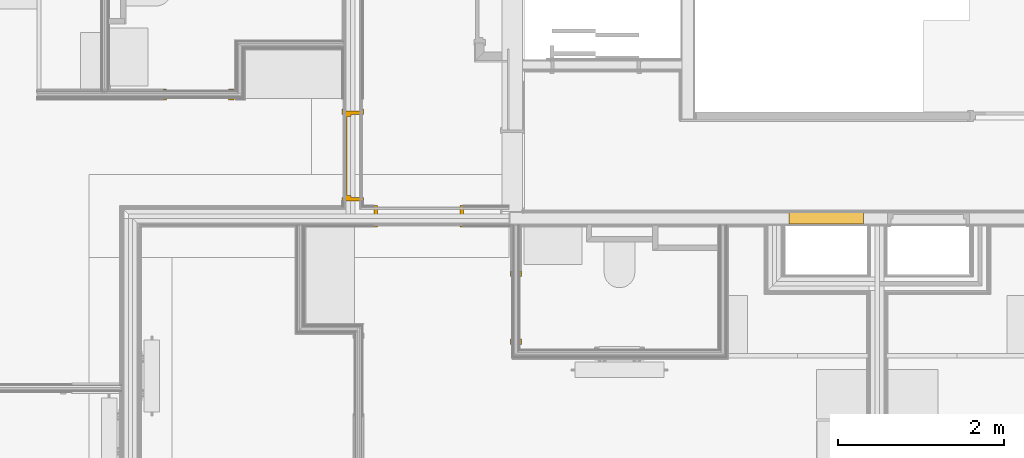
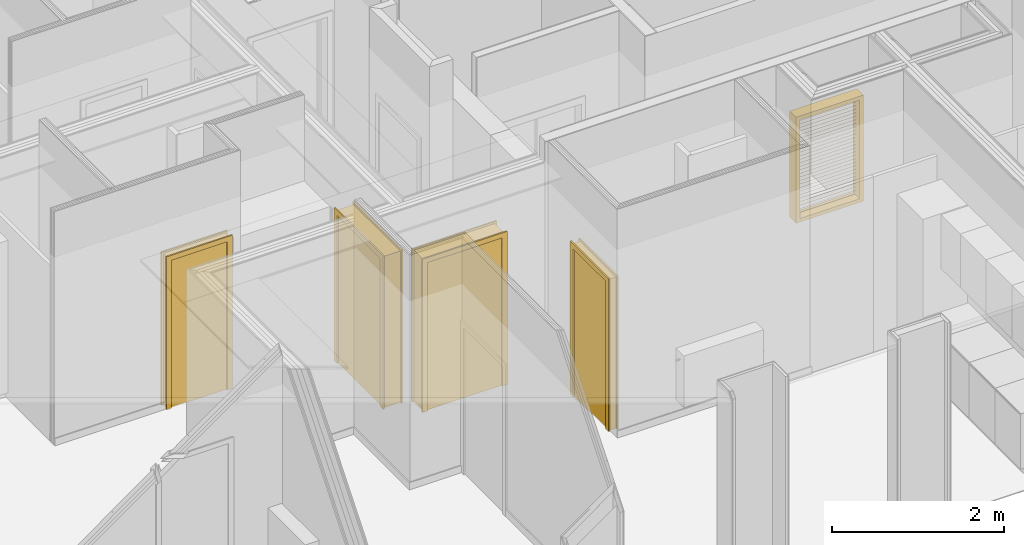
# One storey, part 54 of 65: 4 doors, 1 curtain wall.
"""IFC2X3 building model written with IfcOpenShell, lengths in metres."""

from ifc_helpers import new_model, entity, si_unit, converted_unit, derived_unit, money_unit, direction, frame, origin_with_axes, place, context, subcontext, project, spatial, open_shell, faceted_brep, surface_model, material, type_object, element, save


model = new_model("IFC2X3")

# Units and contexts
model_context = context("Model", 3, precision=1e-05, world=origin_with_axes(), true_north=direction((0.0, 1.0)))
body_context = subcontext(model_context, "Body", "Model", "MODEL_VIEW", scale=1.0)
ifc_project = project(units=[si_unit("LENGTHUNIT", "METRE"), si_unit("AREAUNIT", "SQUARE_METRE"), si_unit("VOLUMEUNIT", "CUBIC_METRE"), si_unit("ABSORBEDDOSEUNIT", "GRAY"), si_unit("AMOUNTOFSUBSTANCEUNIT", "MOLE"), si_unit("DOSEEQUIVALENTUNIT", "SIEVERT"), si_unit("ELECTRICCAPACITANCEUNIT", "FARAD"), si_unit("ELECTRICCHARGEUNIT", "COULOMB"), si_unit("ELECTRICCONDUCTANCEUNIT", "SIEMENS"), si_unit("ELECTRICCURRENTUNIT", "AMPERE"), si_unit("ELECTRICRESISTANCEUNIT", "OHM"), si_unit("ELECTRICVOLTAGEUNIT", "VOLT"), si_unit("ENERGYUNIT", "JOULE"), si_unit("FORCEUNIT", "NEWTON"), si_unit("FREQUENCYUNIT", "HERTZ"), si_unit("ILLUMINANCEUNIT", "LUX"), si_unit("INDUCTANCEUNIT", "HENRY"), si_unit("LUMINOUSFLUXUNIT", "LUMEN"), si_unit("LUMINOUSINTENSITYUNIT", "CANDELA"), si_unit("MAGNETICFLUXDENSITYUNIT", "TESLA"), si_unit("MAGNETICFLUXUNIT", "WEBER"), si_unit("MASSUNIT", "GRAM"), converted_unit("PLANEANGLEUNIT", "degree", entity("IfcReal", 0.0174532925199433), si_unit("PLANEANGLEUNIT", "RADIAN"), dimensions=[0, 0, 0, 0, 0, 0, 0]), si_unit("POWERUNIT", "WATT"), si_unit("PRESSUREUNIT", "PASCAL"), si_unit("RADIOACTIVITYUNIT", "BECQUEREL"), si_unit("SOLIDANGLEUNIT", "STERADIAN"), si_unit("THERMODYNAMICTEMPERATUREUNIT", "KELVIN"), si_unit("TIMEUNIT", "SECOND"), derived_unit("ACCELERATIONUNIT", [(si_unit("LENGTHUNIT", "METRE"), 1), (si_unit("TIMEUNIT", "SECOND"), -2)]), derived_unit("ANGULARVELOCITYUNIT", [(converted_unit("PLANEANGLEUNIT", "degree", entity("IfcReal", 0.0174532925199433), si_unit("PLANEANGLEUNIT", "RADIAN"), dimensions=[0, 0, 0, 0, 0, 0, 0]), 1), (si_unit("TIMEUNIT", "SECOND"), -1)]), derived_unit("CURVATUREUNIT", [(converted_unit("PLANEANGLEUNIT", "degree", entity("IfcReal", 0.0174532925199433), si_unit("PLANEANGLEUNIT", "RADIAN"), dimensions=[0, 0, 0, 0, 0, 0, 0]), 1), (si_unit("LENGTHUNIT", "METRE"), -1)]), derived_unit("DYNAMICVISCOSITYUNIT", [(si_unit("PRESSUREUNIT", "PASCAL"), 1), (si_unit("TIMEUNIT", "SECOND"), 1)]), derived_unit("HEATFLUXDENSITYUNIT", [(si_unit("POWERUNIT", "WATT"), 1), (si_unit("LENGTHUNIT", "METRE"), -2)]), derived_unit("HEATINGVALUEUNIT", [(si_unit("ENERGYUNIT", "JOULE"), 1), (si_unit("MASSUNIT", "GRAM"), -1)]), derived_unit("INTEGERCOUNTRATEUNIT", [(si_unit("TIMEUNIT", "SECOND"), -1)]), derived_unit("IONCONCENTRATIONUNIT", [(si_unit("MASSUNIT", "GRAM"), 1), (si_unit("VOLUMEUNIT", "CUBIC_METRE"), -1)]), derived_unit("ISOTHERMALMOISTURECAPACITYUNIT", [(si_unit("VOLUMEUNIT", "CUBIC_METRE"), 1), (si_unit("MASSUNIT", "GRAM"), -1)]), derived_unit("KINEMATICVISCOSITYUNIT", [(si_unit("AREAUNIT", "SQUARE_METRE"), 1), (si_unit("TIMEUNIT", "SECOND"), -1)]), derived_unit("LINEARFORCEUNIT", [(si_unit("FORCEUNIT", "NEWTON"), 1), (si_unit("LENGTHUNIT", "METRE"), -1)]), derived_unit("LINEARMOMENTUNIT", [(si_unit("FORCEUNIT", "NEWTON"), 1), (si_unit("LENGTHUNIT", "METRE"), -1)]), derived_unit("LINEARSTIFFNESSUNIT", [(si_unit("FORCEUNIT", "NEWTON"), 1), (si_unit("LENGTHUNIT", "METRE"), -1)]), derived_unit("LINEARVELOCITYUNIT", [(si_unit("LENGTHUNIT", "METRE"), 1), (si_unit("TIMEUNIT", "SECOND"), -1)]), derived_unit("LUMINOUSINTENSITYDISTRIBUTIONUNIT", [(si_unit("LUMINOUSINTENSITYUNIT", "CANDELA"), 1), (si_unit("LUMINOUSFLUXUNIT", "LUMEN"), -1)]), derived_unit("MASSDENSITYUNIT", [(si_unit("MASSUNIT", "GRAM"), 1), (si_unit("VOLUMEUNIT", "CUBIC_METRE"), -1)]), derived_unit("MASSFLOWRATEUNIT", [(si_unit("MASSUNIT", "GRAM"), 1), (si_unit("TIMEUNIT", "SECOND"), -1)]), derived_unit("MASSPERLENGTHUNIT", [(si_unit("MASSUNIT", "GRAM"), 1), (si_unit("LENGTHUNIT", "METRE"), -1)]), derived_unit("MODULUSOFELASTICITYUNIT", [(si_unit("FORCEUNIT", "NEWTON"), 1), (si_unit("AREAUNIT", "SQUARE_METRE"), -1)]), derived_unit("MODULUSOFLINEARSUBGRADEREACTIONUNIT", [(si_unit("FORCEUNIT", "NEWTON"), 1), (si_unit("LENGTHUNIT", "METRE"), -2)]), derived_unit("MODULUSOFROTATIONALSUBGRADEREACTIONUNIT", [(si_unit("FORCEUNIT", "NEWTON"), 1), (si_unit("LENGTHUNIT", "METRE"), 1)]), derived_unit("MODULUSOFSUBGRADEREACTIONUNIT", [(si_unit("FORCEUNIT", "NEWTON"), 1), (si_unit("VOLUMEUNIT", "CUBIC_METRE"), -1)]), derived_unit("MOISTUREDIFFUSIVITYUNIT", [(si_unit("VOLUMEUNIT", "CUBIC_METRE"), 1), (si_unit("TIMEUNIT", "SECOND"), -1)]), derived_unit("MOLECULARWEIGHTUNIT", [(si_unit("MASSUNIT", "GRAM"), 1), (si_unit("AMOUNTOFSUBSTANCEUNIT", "MOLE"), -1)]), derived_unit("PLANARFORCEUNIT", [(si_unit("FORCEUNIT", "NEWTON"), 1), (si_unit("LENGTHUNIT", "METRE"), -2)]), derived_unit("ROTATIONALFREQUENCYUNIT", [(si_unit("TIMEUNIT", "SECOND"), -1)]), derived_unit("ROTATIONALMASSUNIT", [(si_unit("MASSUNIT", "GRAM"), 1), (si_unit("LENGTHUNIT", "METRE"), 2)]), derived_unit("ROTATIONALSTIFFNESSUNIT", [(si_unit("FORCEUNIT", "NEWTON"), 1), (si_unit("LENGTHUNIT", "METRE"), 1), (converted_unit("PLANEANGLEUNIT", "degree", entity("IfcReal", 0.0174532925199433), si_unit("PLANEANGLEUNIT", "RADIAN"), dimensions=[0, 0, 0, 0, 0, 0, 0]), -1)]), derived_unit("SECTIONAREAINTEGRALUNIT", [(si_unit("LENGTHUNIT", "METRE"), 5)]), derived_unit("SECTIONMODULUSUNIT", [(si_unit("LENGTHUNIT", "METRE"), 3)]), derived_unit("SHEARMODULUSUNIT", [(si_unit("FORCEUNIT", "NEWTON"), 1), (si_unit("AREAUNIT", "SQUARE_METRE"), -1)]), derived_unit("SOUNDPOWERUNIT", [(si_unit("ENERGYUNIT", "JOULE"), 1), (si_unit("TIMEUNIT", "SECOND"), -1)]), derived_unit("SPECIFICHEATCAPACITYUNIT", [(si_unit("FORCEUNIT", "NEWTON"), 1), (si_unit("MASSUNIT", "GRAM"), -1), (si_unit("THERMODYNAMICTEMPERATUREUNIT", "KELVIN"), -1)]), derived_unit("TEMPERATUREGRADIENTUNIT", [(si_unit("THERMODYNAMICTEMPERATUREUNIT", "KELVIN"), 1), (si_unit("LENGTHUNIT", "METRE"), -1)]), derived_unit("THERMALADMITTANCEUNIT", [(si_unit("POWERUNIT", "WATT"), 1), (si_unit("AREAUNIT", "SQUARE_METRE"), -1), (si_unit("THERMODYNAMICTEMPERATUREUNIT", "KELVIN"), -1)]), derived_unit("THERMALCONDUCTANCEUNIT", [(si_unit("POWERUNIT", "WATT"), 1), (si_unit("LENGTHUNIT", "METRE"), -1), (si_unit("THERMODYNAMICTEMPERATUREUNIT", "KELVIN"), -1)]), derived_unit("THERMALEXPANSIONCOEFFICIENTUNIT", [(si_unit("THERMODYNAMICTEMPERATUREUNIT", "KELVIN"), -1)]), derived_unit("THERMALRESISTANCEUNIT", [(si_unit("AREAUNIT", "SQUARE_METRE"), 1), (si_unit("POWERUNIT", "WATT"), -1)]), derived_unit("THERMALTRANSMITTANCEUNIT", [(si_unit("POWERUNIT", "WATT"), 1), (si_unit("AREAUNIT", "SQUARE_METRE"), -1), (si_unit("THERMODYNAMICTEMPERATUREUNIT", "KELVIN"), -1)]), derived_unit("TORQUEUNIT", [(si_unit("FORCEUNIT", "NEWTON"), 1), (si_unit("LENGTHUNIT", "METRE"), 1)]), derived_unit("VAPORPERMEABILITYUNIT", [(si_unit("MASSUNIT", "GRAM"), 1), (si_unit("TIMEUNIT", "SECOND"), -1)]), derived_unit("VOLUMETRICFLOWRATEUNIT", [(si_unit("VOLUMEUNIT", "CUBIC_METRE"), 1), (si_unit("TIMEUNIT", "SECOND"), -1)]), derived_unit("WARPINGCONSTANTUNIT", [(si_unit("LENGTHUNIT", "METRE"), 6)]), derived_unit("WARPINGMOMENTUNIT", [(si_unit("FORCEUNIT", "NEWTON"), 1), (si_unit("LENGTHUNIT", "METRE"), 2)]), money_unit("GBP")], contexts=[model_context])

# Site, building, storey
site_placement = place(None, origin_with_axes())
site = spatial("IfcSite", under=ifc_project, at=site_placement, Name="Site", CompositionType="ELEMENT")
building_placement = place(site_placement, origin_with_axes())
building = spatial("IfcBuilding", under=site, at=building_placement, Name="Building01", CompositionType="ELEMENT")
storey_placement = place(building_placement, frame((0.0, 0.0, 8.64), z_axis=(0.0, 0.0, 1.0), x_axis=(1.0, 0.0, 0.0)))
storey = spatial("IfcBuildingStorey", under=building, at=storey_placement, Name="2F", CompositionType="ELEMENT", Elevation=8.64)

# Curtain wall
ifc_material_1 = material(Name="A-CurtainWall_Frame")
curtain_wall_type = type_object("IfcCurtainWallType", Name="Generic - Maximum Spacing", PredefinedType="NOTDEFINED")
curtain_wall_placement = place(storey_placement, frame((0.0, 0.0, -8.64), z_axis=(0.0, 0.0, 1.0), x_axis=(1.0, 0.0, 0.0)))
element("IfcCurtainWall", 1, at=curtain_wall_placement, inside=storey, type_object=curtain_wall_type, material=ifc_material_1, Name="Generic - Maximum Spacing", ObjectType="Generic - Maximum Spacing", context=body_context, shape_type="SurfaceModel", body=[
    surface_model("IfcShellBasedSurfaceModel", [(12.483, 5.12953, 9.573684), (12.483, 5.131392, 9.576216), (12.483, 5.09047, 9.606316), (12.483, 5.088608, 9.603784), (13.283, 5.12953, 9.573684), (13.283, 5.088608, 9.603784), (13.283, 5.09047, 9.606316), (13.283, 5.131392, 9.576216), (12.483, 5.131392, 9.626216), (12.483, 5.09047, 9.656316), (12.483, 5.088608, 9.653784), (12.483, 5.12953, 9.623684), (13.283, 5.12953, 9.623684), (13.283, 5.088608, 9.653784), (13.283, 5.09047, 9.656316), (13.283, 5.131392, 9.626216), (12.483, 5.131392, 9.676216), (12.483, 5.09047, 9.706316), (12.483, 5.088608, 9.703784), (12.483, 5.12953, 9.673684), (13.283, 5.12953, 9.673684), (13.283, 5.088608, 9.703784), (13.283, 5.09047, 9.706316), (13.283, 5.131392, 9.676216), (12.483, 5.131392, 9.726216), (12.483, 5.09047, 9.756316), (12.483, 5.088608, 9.753784), (12.483, 5.12953, 9.723684), (13.283, 5.12953, 9.723684), (13.283, 5.088608, 9.753784), (13.283, 5.09047, 9.756316), (13.283, 5.131392, 9.726216), (12.483, 5.131392, 9.776216), (12.483, 5.09047, 9.806316), (12.483, 5.088608, 9.803784), (12.483, 5.12953, 9.773684), (13.283, 5.12953, 9.773684), (13.283, 5.088608, 9.803784), (13.283, 5.09047, 9.806316), (13.283, 5.131392, 9.776216), (12.483, 5.131392, 9.826216), (12.483, 5.09047, 9.856316), (12.483, 5.088608, 9.853784), (12.483, 5.12953, 9.823684), (13.283, 5.12953, 9.823684), (13.283, 5.088608, 9.853784), (13.283, 5.09047, 9.856316), (13.283, 5.131392, 9.826216), (12.483, 5.131392, 9.876216), (12.483, 5.09047, 9.906316), (12.483, 5.088608, 9.903784), (12.483, 5.12953, 9.873684), (13.283, 5.12953, 9.873684), (13.283, 5.088608, 9.903784), (13.283, 5.09047, 9.906316), (13.283, 5.131392, 9.876216), (12.483, 5.131392, 9.926216), (12.483, 5.09047, 9.956316), (12.483, 5.088608, 9.953784), (12.483, 5.12953, 9.923684), (13.283, 5.12953, 9.923684), (13.283, 5.088608, 9.953784), (13.283, 5.09047, 9.956316), (13.283, 5.131392, 9.926216), (12.483, 5.131392, 9.976216), (12.483, 5.09047, 10.006316), (12.483, 5.088608, 10.003784), (12.483, 5.12953, 9.973684), (13.283, 5.12953, 9.973684), (13.283, 5.088608, 10.003784), (13.283, 5.09047, 10.006316), (13.283, 5.131392, 9.976216), (12.483, 5.131392, 10.026216), (12.483, 5.09047, 10.056316), (12.483, 5.088608, 10.053784), (12.483, 5.12953, 10.023684), (13.283, 5.12953, 10.023684), (13.283, 5.088608, 10.053784), (13.283, 5.09047, 10.056316), (13.283, 5.131392, 10.026216), (12.483, 5.131392, 10.076216), (12.483, 5.09047, 10.106316), (12.483, 5.088608, 10.103784), (12.483, 5.12953, 10.073684), (13.283, 5.12953, 10.073684), (13.283, 5.088608, 10.103784), (13.283, 5.09047, 10.106316), (13.283, 5.131392, 10.076216), (12.483, 5.131392, 10.126216), (12.483, 5.09047, 10.156316), (12.483, 5.088608, 10.153784), (12.483, 5.12953, 10.123684), (13.283, 5.12953, 10.123684), (13.283, 5.088608, 10.153784), (13.283, 5.09047, 10.156316), (13.283, 5.131392, 10.126216), (12.483, 5.131392, 10.176216), (12.483, 5.09047, 10.206316), (12.483, 5.088608, 10.203784), (12.483, 5.12953, 10.173684), (13.283, 5.12953, 10.173684), (13.283, 5.088608, 10.203784), (13.283, 5.09047, 10.206316), (13.283, 5.131392, 10.176216), (12.483, 5.131392, 10.226216), (12.483, 5.09047, 10.256316), (12.483, 5.088608, 10.253784), (12.483, 5.12953, 10.223684), (13.283, 5.12953, 10.223684), (13.283, 5.088608, 10.253784), (13.283, 5.09047, 10.256316), (13.283, 5.131392, 10.226216), (12.483, 5.131392, 10.276216), (12.483, 5.09047, 10.306316), (12.483, 5.088608, 10.303784), (12.483, 5.12953, 10.273684), (13.283, 5.12953, 10.273684), (13.283, 5.088608, 10.303784), (13.283, 5.09047, 10.306316), (13.283, 5.131392, 10.276216), (12.483, 5.131392, 10.326216), (12.483, 5.09047, 10.356316), (12.483, 5.088608, 10.353784), (12.483, 5.12953, 10.323684), (13.283, 5.12953, 10.323684), (13.283, 5.088608, 10.353784), (13.283, 5.09047, 10.356316), (13.283, 5.131392, 10.326216), (12.483, 5.131392, 10.376216), (12.483, 5.09047, 10.406316), (12.483, 5.088608, 10.403784), (12.483, 5.12953, 10.373684), (13.283, 5.12953, 10.373684), (13.283, 5.088608, 10.403784), (13.283, 5.09047, 10.406316), (13.283, 5.131392, 10.376216), (12.483, 5.131392, 10.426216), (12.483, 5.09047, 10.456316), (12.483, 5.088608, 10.453784), (12.483, 5.12953, 10.423684), (13.283, 5.12953, 10.423684), (13.283, 5.088608, 10.453784), (13.283, 5.09047, 10.456316), (13.283, 5.131392, 10.426216), (12.483, 5.131392, 10.476216), (12.483, 5.09047, 10.506316), (12.483, 5.088608, 10.503784), (12.483, 5.12953, 10.473684), (13.283, 5.12953, 10.473684), (13.283, 5.088608, 10.503784), (13.283, 5.09047, 10.506316), (13.283, 5.131392, 10.476216), (12.483, 5.131392, 10.526216), (12.483, 5.09047, 10.556316), (12.483, 5.088608, 10.553784), (12.483, 5.12953, 10.523684), (13.283, 5.12953, 10.523684), (13.283, 5.088608, 10.553784), (13.283, 5.09047, 10.556316), (13.283, 5.131392, 10.526216), (12.483, 5.131392, 10.576216), (12.483, 5.09047, 10.606316), (12.483, 5.088608, 10.603784), (12.483, 5.12953, 10.573684), (13.283, 5.12953, 10.573684), (13.283, 5.088608, 10.603784), (13.283, 5.09047, 10.606316), (13.283, 5.131392, 10.576216), (12.483, 5.131392, 10.626216), (12.483, 5.09047, 10.656316), (12.483, 5.088608, 10.653784), (12.483, 5.12953, 10.623684), (13.283, 5.12953, 10.623684), (13.283, 5.088608, 10.653784), (13.283, 5.09047, 10.656316), (13.283, 5.131392, 10.626216), (12.483, 5.131392, 10.676216), (12.483, 5.09047, 10.706316), (12.483, 5.088608, 10.703784), (12.483, 5.12953, 10.673684), (13.283, 5.12953, 10.673684), (13.283, 5.088608, 10.703784), (13.283, 5.09047, 10.706316), (13.283, 5.131392, 10.676216), (12.483, 5.131392, 10.726216), (12.483, 5.09047, 10.756316), (12.483, 5.088608, 10.753784), (12.483, 5.12953, 10.723684), (13.283, 5.12953, 10.723684), (13.283, 5.088608, 10.753784), (13.283, 5.09047, 10.756316), (13.283, 5.131392, 10.726216), (12.483, 5.131392, 10.776216), (12.483, 5.09047, 10.806316), (12.483, 5.088608, 10.803784), (12.483, 5.12953, 10.773684), (13.283, 5.12953, 10.773684), (13.283, 5.088608, 10.803784), (13.283, 5.09047, 10.806316), (13.283, 5.131392, 10.776216), (12.483, 5.131392, 10.826216), (12.483, 5.09047, 10.856316), (12.483, 5.088608, 10.853784), (12.483, 5.12953, 10.823684), (13.283, 5.12953, 10.823684), (13.283, 5.088608, 10.853784), (13.283, 5.09047, 10.856316), (13.283, 5.131392, 10.826216), (12.483, 5.131392, 10.876216), (12.483, 5.09047, 10.906316), (12.483, 5.088608, 10.903784), (12.483, 5.12953, 10.873684), (13.283, 5.12953, 10.873684), (13.283, 5.088608, 10.903784), (13.283, 5.09047, 10.906316), (13.283, 5.131392, 10.876216), (12.483, 5.131392, 10.926216), (12.483, 5.09047, 10.956316), (12.483, 5.088608, 10.953784), (12.483, 5.12953, 10.923684), (13.283, 5.12953, 10.923684), (13.283, 5.088608, 10.953784), (13.283, 5.09047, 10.956316), (13.283, 5.131392, 10.926216), (13.283, 5.15, 9.59), (13.283, 5.0, 9.59), (13.283, 5.0, 9.54), (13.283, 5.15, 9.54), (12.483, 5.15, 9.54), (12.483, 5.15, 9.59), (12.483, 5.0, 9.59), (12.483, 5.0, 9.54), (13.333, 5.0, 11.04), (13.333, 5.15, 11.04), (13.283, 5.15, 11.04), (13.283, 5.0, 11.04), (13.333, 5.0, 9.54), (13.333, 5.15, 9.54), (12.483, 5.0, 11.04), (12.483, 5.15, 11.04), (12.483, 5.15, 10.99), (12.483, 5.0, 10.99), (13.283, 5.0, 10.99), (13.283, 5.15, 10.99), (12.433, 5.0, 9.54), (12.433, 5.15, 9.54), (12.433, 5.0, 11.04), (12.433, 5.15, 11.04)], [open_shell([[[0, 1, 2, 3]], [[1, 2, 3, 0]], [[4, 5, 6, 7]], [[1, 0, 4, 7]], [[2, 1, 7, 6]], [[3, 2, 6, 5]], [[4, 0, 3, 5]], [[8, 9, 10, 11]], [[12, 13, 14, 15]], [[8, 11, 12, 15]], [[9, 8, 15, 14]], [[10, 9, 14, 13]], [[12, 11, 10, 13]], [[16, 17, 18, 19]], [[20, 21, 22, 23]], [[16, 19, 20, 23]], [[17, 16, 23, 22]], [[18, 17, 22, 21]], [[20, 19, 18, 21]], [[24, 25, 26, 27]], [[28, 29, 30, 31]], [[24, 27, 28, 31]], [[25, 24, 31, 30]], [[26, 25, 30, 29]], [[28, 27, 26, 29]], [[32, 33, 34, 35]], [[36, 37, 38, 39]], [[32, 35, 36, 39]], [[33, 32, 39, 38]], [[34, 33, 38, 37]], [[36, 35, 34, 37]], [[40, 41, 42, 43]], [[44, 45, 46, 47]], [[40, 43, 44, 47]], [[41, 40, 47, 46]], [[42, 41, 46, 45]], [[44, 43, 42, 45]], [[48, 49, 50, 51]], [[52, 53, 54, 55]], [[48, 51, 52, 55]], [[49, 48, 55, 54]], [[50, 49, 54, 53]], [[52, 51, 50, 53]], [[56, 57, 58, 59]], [[60, 61, 62, 63]], [[56, 59, 60, 63]], [[57, 56, 63, 62]], [[58, 57, 62, 61]], [[60, 59, 58, 61]], [[64, 65, 66, 67]], [[68, 69, 70, 71]], [[64, 67, 68, 71]], [[65, 64, 71, 70]], [[66, 65, 70, 69]], [[68, 67, 66, 69]], [[72, 73, 74, 75]], [[76, 77, 78, 79]], [[72, 75, 76, 79]], [[73, 72, 79, 78]], [[74, 73, 78, 77]], [[76, 75, 74, 77]], [[80, 81, 82, 83]], [[84, 85, 86, 87]], [[80, 83, 84, 87]], [[81, 80, 87, 86]], [[82, 81, 86, 85]], [[84, 83, 82, 85]], [[88, 89, 90, 91]], [[92, 93, 94, 95]], [[88, 91, 92, 95]], [[89, 88, 95, 94]], [[90, 89, 94, 93]], [[92, 91, 90, 93]], [[96, 97, 98, 99]], [[100, 101, 102, 103]], [[96, 99, 100, 103]], [[97, 96, 103, 102]], [[98, 97, 102, 101]], [[100, 99, 98, 101]], [[104, 105, 106, 107]], [[108, 109, 110, 111]], [[104, 107, 108, 111]], [[105, 104, 111, 110]], [[106, 105, 110, 109]], [[108, 107, 106, 109]], [[112, 113, 114, 115]], [[116, 117, 118, 119]], [[112, 115, 116, 119]], [[113, 112, 119, 118]], [[114, 113, 118, 117]], [[116, 115, 114, 117]], [[120, 121, 122, 123]], [[124, 125, 126, 127]], [[120, 123, 124, 127]], [[121, 120, 127, 126]], [[122, 121, 126, 125]], [[124, 123, 122, 125]], [[128, 129, 130, 131]], [[132, 133, 134, 135]], [[128, 131, 132, 135]], [[129, 128, 135, 134]], [[130, 129, 134, 133]], [[132, 131, 130, 133]], [[136, 137, 138, 139]], [[140, 141, 142, 143]], [[136, 139, 140, 143]], [[137, 136, 143, 142]], [[138, 137, 142, 141]], [[140, 139, 138, 141]], [[144, 145, 146, 147]], [[148, 149, 150, 151]], [[144, 147, 148, 151]], [[145, 144, 151, 150]], [[146, 145, 150, 149]], [[148, 147, 146, 149]], [[152, 153, 154, 155]], [[156, 157, 158, 159]], [[152, 155, 156, 159]], [[153, 152, 159, 158]], [[154, 153, 158, 157]], [[156, 155, 154, 157]], [[160, 161, 162, 163]], [[164, 165, 166, 167]], [[160, 163, 164, 167]], [[161, 160, 167, 166]], [[162, 161, 166, 165]], [[164, 163, 162, 165]], [[168, 169, 170, 171]], [[172, 173, 174, 175]], [[168, 171, 172, 175]], [[169, 168, 175, 174]], [[170, 169, 174, 173]], [[172, 171, 170, 173]], [[176, 177, 178, 179]], [[180, 181, 182, 183]], [[176, 179, 180, 183]], [[177, 176, 183, 182]], [[178, 177, 182, 181]], [[180, 179, 178, 181]], [[184, 185, 186, 187]], [[188, 189, 190, 191]], [[184, 187, 188, 191]], [[185, 184, 191, 190]], [[186, 185, 190, 189]], [[188, 187, 186, 189]], [[192, 193, 194, 195]], [[196, 197, 198, 199]], [[192, 195, 196, 199]], [[193, 192, 199, 198]], [[194, 193, 198, 197]], [[196, 195, 194, 197]], [[200, 201, 202, 203]], [[204, 205, 206, 207]], [[200, 203, 204, 207]], [[201, 200, 207, 206]], [[202, 201, 206, 205]], [[204, 203, 202, 205]], [[208, 209, 210, 211]], [[212, 213, 214, 215]], [[208, 211, 212, 215]], [[209, 208, 215, 214]], [[210, 209, 214, 213]], [[212, 211, 210, 213]], [[216, 217, 218, 219]], [[220, 221, 222, 223]], [[216, 219, 220, 223]], [[217, 216, 223, 222]], [[218, 217, 222, 221]], [[220, 219, 218, 221]], [[224, 225, 226, 227]], [[227, 228, 229, 224]], [[224, 229, 230, 225]], [[225, 230, 231, 226]], [[226, 231, 228, 227]], [[231, 230, 229, 228]], [[232, 233, 234, 235]], [[235, 226, 236, 232]], [[234, 227, 226, 235]], [[233, 237, 227, 234]], [[232, 236, 237, 233]], [[226, 227, 237, 236]], [[238, 239, 240, 241]], [[241, 242, 235, 238]], [[238, 235, 234, 239]], [[239, 234, 243, 240]], [[240, 243, 242, 241]], [[243, 234, 235, 242]], [[244, 245, 228, 231]], [[231, 238, 246, 244]], [[228, 239, 238, 231]], [[245, 247, 239, 228]], [[244, 246, 247, 245]], [[238, 239, 247, 246]]])]),
])

# Space
space_1_placement = place(storey_placement, frame((6.595, 4.98, 0.017975), z_axis=(0.0, 0.0, 1.0), x_axis=(0.0, -1.0, 0.0)))
space_1 = spatial("IfcSpace", under=storey, at=space_1_placement, Name="k/d/l", CompositionType="ELEMENT", InteriorOrExteriorSpace="NOTDEFINED")

# Door
ifc_material_2 = material(Name="A_BSUK_Doors")
door_style_1 = type_object("IfcDoorStyle", Name="A-Doors-SingleFlush", ConstructionType="USERDEFINED", OperationType="SINGLE_SWING_RIGHT", ParameterTakesPrecedence=False, Sizeable=False)
door_1_placement = place(storey_placement, frame((8.4725, 4.98, 0.004), z_axis=(0.0, 0.0, 1.0), x_axis=(-1.0, 0.0, 0.0)))
element("IfcDoor", 2, at=door_1_placement, inside=space_1, type_object=door_style_1, material=ifc_material_2, Name="2.27", ObjectType="A-Doors-SingleFlush", OverallHeight=2.16900000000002, OverallWidth=1.13800000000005, context=body_context, shape_type="Brep", body=[
    faceted_brep([(1.0, -0.244, 0.0), (1.069, -0.244, 0.0), (1.069, -0.244, 2.169), (-0.069, -0.244, 2.169), (-0.069, -0.244, 0.0), (0.0, -0.244, 0.0), (0.0, -0.244, 2.1), (1.0, -0.244, 2.1), (-0.069, -0.225, 0.0), (-0.069, -0.225, 2.169), (1.069, -0.225, 2.169), (1.069, -0.225, 0.0), (1.0, 0.019, 0.0), (1.069, 0.019, 0.0), (1.069, 0.0, 0.0), (1.042, 0.0, 0.0), (1.042, -0.225, 0.0), (1.0, 0.019, 2.1), (0.0, 0.019, 2.1), (0.0, 0.019, 0.0), (-0.069, 0.019, 0.0), (-0.069, 0.019, 2.169), (1.069, 0.019, 2.169), (1.069, 0.0, 2.169), (1.042, -0.225, 2.142), (1.042, 0.0, 2.142), (-0.042, -0.225, 2.142), (-0.042, 0.0, 2.142), (-0.042, -0.225, 0.0), (-0.042, 0.0, 0.0), (-0.069, 0.0, 2.169), (-0.069, 0.0, 0.0)], [[[0, 1, 2, 3, 4, 5, 6, 7]], [[8, 4, 3, 9]], [[10, 2, 1, 11]], [[9, 3, 2, 10]], [[12, 13, 14, 15, 16, 11, 1, 0]], [[7, 17, 12, 0]], [[6, 18, 17, 7]], [[18, 19, 20, 21, 22, 13, 12, 17]], [[5, 19, 18, 6]], [[13, 22, 23, 14]], [[24, 16, 15, 25]], [[26, 24, 25, 27]], [[11, 16, 24, 26, 28, 8, 9, 10]], [[27, 29, 28, 26]], [[25, 15, 14, 23, 30, 31, 29, 27]], [[5, 4, 8, 28, 29, 31, 20, 19]], [[30, 21, 20, 31]], [[23, 22, 21, 30]]]),
    faceted_brep([(0.0, -0.09, 2.1), (0.0, -0.04, 2.1), (0.0, -0.04, 0.0), (0.0, -0.09, 0.0), (0.975, -0.09, 0.0), (1.0, -0.09, 0.0), (1.0, -0.09, 2.1), (0.025, -0.09, 0.0), (0.025, -0.09, 2.075), (0.975, -0.09, 2.075), (0.975, -0.04, 0.0), (1.0, -0.04, 0.0), (1.0, -0.04, 2.1), (0.025, -0.04, 2.075), (0.025, -0.04, 0.0), (0.975, -0.04, 2.075)], [[[0, 1, 2, 3]], [[4, 5, 6, 0, 3, 7, 8, 9]], [[10, 11, 5, 4]], [[6, 12, 1, 0]], [[5, 11, 12, 6]], [[13, 14, 2, 1, 12, 11, 10, 15]], [[7, 14, 13, 8]], [[7, 3, 2, 14]], [[9, 15, 10, 4]], [[8, 13, 15, 9]]]),
    faceted_brep([(1.0, -0.04, 0.0), (1.0, 0.0, 0.0), (1.0, 0.0, 2.1), (1.0, -0.04, 2.1), (0.0, -0.04, 2.1), (0.0, 0.0, 2.1), (0.0, 0.0, 0.0), (0.0, -0.04, 0.0)], [[[0, 1, 2, 3]], [[4, 5, 6, 7]], [[7, 6, 1, 0]], [[3, 4, 7, 0]], [[3, 2, 5, 4]], [[1, 6, 5, 2]]]),
])

# Space
space_2_placement = place(storey_placement, frame((0.318, 8.21067, 0.017975), z_axis=(0.0, 0.0, 1.0), x_axis=(0.0, -1.0, 0.0)))
space_2 = spatial("IfcSpace", under=storey, at=space_2_placement, Name="13", CompositionType="ELEMENT", InteriorOrExteriorSpace="NOTDEFINED")

# Doors
door_style_2 = type_object("IfcDoorStyle", Name="A-Doors-SingleFlush", ConstructionType="USERDEFINED", OperationType="SINGLE_SWING_LEFT", ParameterTakesPrecedence=False, Sizeable=False)
door_2_placement = place(storey_placement, frame((7.064669, 5.316475, 0.0), z_axis=(0.0, 0.0, 1.0), x_axis=(0.0, 1.0, 0.0)))
element("IfcDoor", 3, at=door_2_placement, inside=space_2, type_object=door_style_2, material=ifc_material_2, Name="2.17", ObjectType="A-Doors-SingleFlush", OverallHeight=2.16900000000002, OverallWidth=1.13800000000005, context=body_context, shape_type="Brep", body=[
    faceted_brep([(0.0, -0.244, 2.1), (1.0, -0.244, 2.1), (1.0, -0.244, 0.0), (1.069, -0.244, 0.0), (1.069, -0.244, 2.169), (-0.069, -0.244, 2.169), (-0.069, -0.244, 0.0), (0.0, -0.244, 0.0), (1.069, -0.225, 2.169), (1.069, -0.225, 0.0), (-0.069, -0.225, 0.0), (-0.069, -0.225, 2.169), (-0.042, -0.225, 0.0), (-0.042, 0.0, 0.0), (-0.069, 0.0, 0.0), (-0.069, 0.019, 0.0), (0.0, 0.019, 0.0), (0.0, 0.019, 2.1), (1.0, 0.019, 2.1), (-0.069, 0.019, 2.169), (1.069, 0.019, 2.169), (1.069, 0.019, 0.0), (1.0, 0.019, 0.0), (-0.069, 0.0, 2.169), (-0.042, 0.0, 2.142), (-0.042, -0.225, 2.142), (1.042, 0.0, 2.142), (1.042, -0.225, 2.142), (1.042, -0.225, 0.0), (1.042, 0.0, 0.0), (1.069, 0.0, 0.0), (1.069, 0.0, 2.169)], [[[0, 1, 2, 3, 4, 5, 6, 7]], [[8, 4, 3, 9]], [[10, 6, 5, 11]], [[11, 5, 4, 8]], [[7, 6, 10, 12, 13, 14, 15, 16]], [[7, 16, 17, 0]], [[0, 17, 18, 1]], [[17, 16, 15, 19, 20, 21, 22, 18]], [[1, 18, 22, 2]], [[14, 23, 19, 15]], [[24, 13, 12, 25]], [[26, 24, 25, 27]], [[11, 8, 9, 28, 27, 25, 12, 10]], [[27, 28, 29, 26]], [[26, 29, 30, 31, 23, 14, 13, 24]], [[22, 21, 30, 29, 28, 9, 3, 2]], [[30, 21, 20, 31]], [[31, 20, 19, 23]]]),
    faceted_brep([(1.0, -0.09, 0.0), (1.0, -0.04, 0.0), (1.0, -0.04, 2.1), (1.0, -0.09, 2.1), (0.025, -0.09, 2.075), (0.975, -0.09, 2.075), (0.975, -0.09, 0.0), (0.0, -0.09, 2.1), (0.0, -0.09, 0.0), (0.025, -0.09, 0.0), (0.0, -0.04, 0.0), (0.025, -0.04, 0.0), (0.0, -0.04, 2.1), (0.025, -0.04, 2.075), (0.975, -0.04, 0.0), (0.975, -0.04, 2.075)], [[[0, 1, 2, 3]], [[4, 5, 6, 0, 3, 7, 8, 9]], [[9, 8, 10, 11]], [[3, 2, 12, 7]], [[7, 12, 10, 8]], [[13, 11, 10, 12, 2, 1, 14, 15]], [[5, 15, 14, 6]], [[14, 1, 0, 6]], [[9, 11, 13, 4]], [[4, 13, 15, 5]]]),
    faceted_brep([(0.0, -0.04, 2.1), (0.0, 0.0, 2.1), (0.0, 0.0, 0.0), (0.0, -0.04, 0.0), (1.0, -0.04, 0.0), (1.0, 0.0, 0.0), (1.0, 0.0, 2.1), (1.0, -0.04, 2.1)], [[[0, 1, 2, 3]], [[4, 5, 6, 7]], [[3, 2, 5, 4]], [[3, 4, 7, 0]], [[7, 6, 1, 0]], [[1, 6, 5, 2]]]),
])
door_style_3 = type_object("IfcDoorStyle", Name="A-Doors-SingleFlush", ConstructionType="USERDEFINED", OperationType="SINGLE_SWING_LEFT", ParameterTakesPrecedence=False, Sizeable=False)
door_3_placement = place(storey_placement, frame((5.679088, 6.511475, 0.0), z_axis=(0.0, 0.0, 1.0), x_axis=(-1.0, 0.0, 0.0)))
element("IfcDoor", 4, at=door_3_placement, inside=space_2, type_object=door_style_3, material=ifc_material_2, Name="2.18", ObjectType="A-Doors-SingleFlush", OverallHeight=2.16900000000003, OverallWidth=0.888000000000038, context=body_context, shape_type="Brep", body=[
    faceted_brep([(0.0, -0.114, 2.1), (0.75, -0.114, 2.1), (0.75, -0.114, 0.0), (0.819, -0.114, 0.0), (0.819, -0.114, 2.169), (-0.069, -0.114, 2.169), (-0.069, -0.114, 0.0), (0.0, -0.114, 0.0), (0.819, -0.095, 2.169), (0.819, -0.095, 0.0), (-0.069, -0.095, 0.0), (-0.069, -0.095, 2.169), (-0.042, -0.095, 0.0), (-0.042, 0.0, 0.0), (-0.069, 0.0, 0.0), (-0.069, 0.019, 0.0), (0.0, 0.019, 0.0), (0.0, 0.019, 2.1), (0.75, 0.019, 2.1), (-0.069, 0.019, 2.169), (0.819, 0.019, 2.169), (0.819, 0.019, 0.0), (0.75, 0.019, 0.0), (-0.069, 0.0, 2.169), (-0.042, 0.0, 2.142), (-0.042, -0.095, 2.142), (0.792, 0.0, 2.142), (0.792, -0.095, 2.142), (0.792, -0.095, 0.0), (0.792, 0.0, 0.0), (0.819, 0.0, 0.0), (0.819, 0.0, 2.169)], [[[0, 1, 2, 3, 4, 5, 6, 7]], [[8, 4, 3, 9]], [[10, 6, 5, 11]], [[11, 5, 4, 8]], [[7, 6, 10, 12, 13, 14, 15, 16]], [[7, 16, 17, 0]], [[0, 17, 18, 1]], [[17, 16, 15, 19, 20, 21, 22, 18]], [[1, 18, 22, 2]], [[14, 23, 19, 15]], [[24, 13, 12, 25]], [[26, 24, 25, 27]], [[11, 8, 9, 28, 27, 25, 12, 10]], [[27, 28, 29, 26]], [[26, 29, 30, 31, 23, 14, 13, 24]], [[22, 21, 30, 29, 28, 9, 3, 2]], [[30, 21, 20, 31]], [[31, 20, 19, 23]]]),
    faceted_brep([(0.75, -0.09, 0.0), (0.75, -0.04, 0.0), (0.75, -0.04, 2.1), (0.75, -0.09, 2.1), (0.025, -0.09, 2.075), (0.725, -0.09, 2.075), (0.725, -0.09, 0.0), (0.0, -0.09, 2.1), (0.0, -0.09, 0.0), (0.025, -0.09, 0.0), (0.0, -0.04, 0.0), (0.025, -0.04, 0.0), (0.0, -0.04, 2.1), (0.025, -0.04, 2.075), (0.725, -0.04, 0.0), (0.725, -0.04, 2.075)], [[[0, 1, 2, 3]], [[4, 5, 6, 0, 3, 7, 8, 9]], [[9, 8, 10, 11]], [[3, 2, 12, 7]], [[7, 12, 10, 8]], [[13, 11, 10, 12, 2, 1, 14, 15]], [[5, 15, 14, 6]], [[14, 1, 0, 6]], [[9, 11, 13, 4]], [[4, 13, 15, 5]]]),
    faceted_brep([(0.0, -0.04, 2.1), (0.0, 0.0, 2.1), (0.0, 0.0, 0.0), (0.0, -0.04, 0.0), (0.75, -0.04, 0.0), (0.75, 0.0, 0.0), (0.75, 0.0, 2.1), (0.75, -0.04, 2.1)], [[[0, 1, 2, 3]], [[4, 5, 6, 7]], [[3, 2, 5, 4]], [[3, 4, 7, 0]], [[7, 6, 1, 0]], [[1, 6, 5, 2]]]),
])

# Space
space_3_placement = place(storey_placement, frame((12.15, 4.98, 0.017975), z_axis=(0.0, 0.0, 1.0), x_axis=(-1.0, 0.0, 0.0)))
space_3 = spatial("IfcSpace", under=storey, at=space_3_placement, Name="12", CompositionType="ELEMENT", InteriorOrExteriorSpace="NOTDEFINED")

# Door
door_4_placement = place(storey_placement, frame((9.097536, 3.613781, 0.0), z_axis=(0.0, 0.0, 1.0), x_axis=(0.0, 1.0, 0.0)))
element("IfcDoor", 5, at=door_4_placement, inside=space_3, type_object=door_style_3, material=ifc_material_2, Name="2.15", ObjectType="A-Doors-SingleFlush", OverallHeight=2.16900000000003, OverallWidth=0.888000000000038, context=body_context, shape_type="Brep", body=[
    faceted_brep([(0.0, -0.114, 2.1), (0.75, -0.114, 2.1), (0.75, -0.114, 0.0), (0.819, -0.114, 0.0), (0.819, -0.114, 2.169), (-0.069, -0.114, 2.169), (-0.069, -0.114, 0.0), (0.0, -0.114, 0.0), (0.819, -0.095, 2.169), (0.819, -0.095, 0.0), (-0.069, -0.095, 0.0), (-0.069, -0.095, 2.169), (-0.042, -0.095, 0.0), (-0.042, 0.0, 0.0), (-0.069, 0.0, 0.0), (-0.069, 0.019, 0.0), (0.0, 0.019, 0.0), (0.0, 0.019, 2.1), (0.75, 0.019, 2.1), (-0.069, 0.019, 2.169), (0.819, 0.019, 2.169), (0.819, 0.019, 0.0), (0.75, 0.019, 0.0), (-0.069, 0.0, 2.169), (-0.042, 0.0, 2.142), (-0.042, -0.095, 2.142), (0.792, 0.0, 2.142), (0.792, -0.095, 2.142), (0.792, -0.095, 0.0), (0.792, 0.0, 0.0), (0.819, 0.0, 0.0), (0.819, 0.0, 2.169)], [[[0, 1, 2, 3, 4, 5, 6, 7]], [[8, 4, 3, 9]], [[10, 6, 5, 11]], [[11, 5, 4, 8]], [[7, 6, 10, 12, 13, 14, 15, 16]], [[7, 16, 17, 0]], [[0, 17, 18, 1]], [[17, 16, 15, 19, 20, 21, 22, 18]], [[1, 18, 22, 2]], [[14, 23, 19, 15]], [[24, 13, 12, 25]], [[26, 24, 25, 27]], [[11, 8, 9, 28, 27, 25, 12, 10]], [[27, 28, 29, 26]], [[26, 29, 30, 31, 23, 14, 13, 24]], [[22, 21, 30, 29, 28, 9, 3, 2]], [[30, 21, 20, 31]], [[31, 20, 19, 23]]]),
    faceted_brep([(0.75, -0.09, 0.0), (0.75, -0.04, 0.0), (0.75, -0.04, 2.1), (0.75, -0.09, 2.1), (0.025, -0.09, 2.075), (0.725, -0.09, 2.075), (0.725, -0.09, 0.0), (0.0, -0.09, 2.1), (0.0, -0.09, 0.0), (0.025, -0.09, 0.0), (0.0, -0.04, 0.0), (0.025, -0.04, 0.0), (0.0, -0.04, 2.1), (0.025, -0.04, 2.075), (0.725, -0.04, 0.0), (0.725, -0.04, 2.075)], [[[0, 1, 2, 3]], [[4, 5, 6, 0, 3, 7, 8, 9]], [[9, 8, 10, 11]], [[3, 2, 12, 7]], [[7, 12, 10, 8]], [[13, 11, 10, 12, 2, 1, 14, 15]], [[5, 15, 14, 6]], [[14, 1, 0, 6]], [[9, 11, 13, 4]], [[4, 13, 15, 5]]]),
    faceted_brep([(0.0, -0.04, 2.1), (0.0, 0.0, 2.1), (0.0, 0.0, 0.0), (0.0, -0.04, 0.0), (0.75, -0.04, 0.0), (0.75, 0.0, 0.0), (0.75, 0.0, 2.1), (0.75, -0.04, 2.1)], [[[0, 1, 2, 3]], [[4, 5, 6, 7]], [[3, 2, 5, 4]], [[3, 4, 7, 0]], [[7, 6, 1, 0]], [[1, 6, 5, 2]]]),
])

save(model, "model.ifc")
